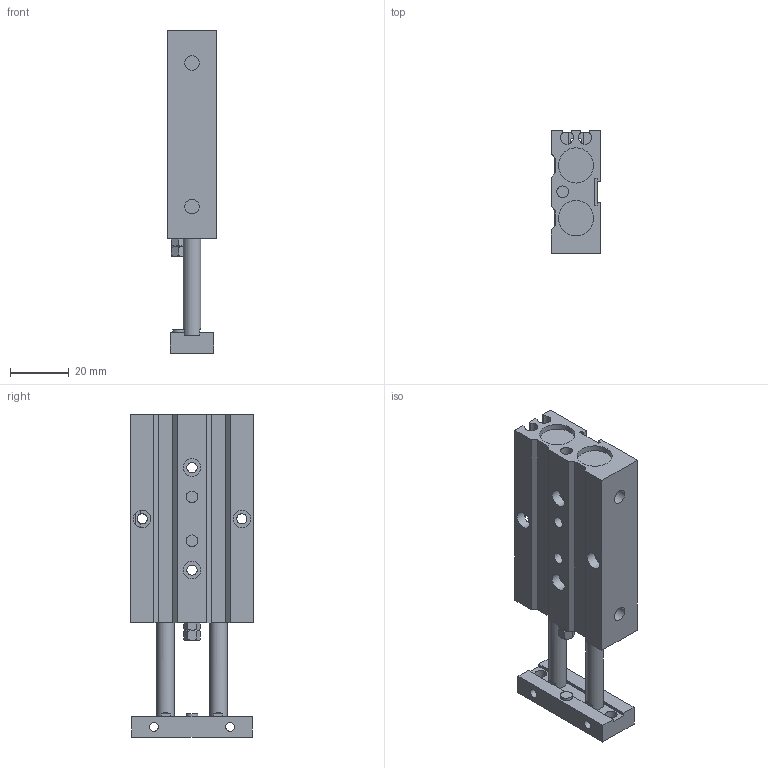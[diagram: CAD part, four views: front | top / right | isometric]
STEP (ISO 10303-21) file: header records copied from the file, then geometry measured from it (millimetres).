
FILE_DESCRIPTION((''),'2;1');
FILE_NAME('I:\3D電子目錄\氣缸\TD\TD10\TD10\TD10x25.stp','2007-08-06T09:34:23',('Administrator'),(''),'Autodesk Inventor 2008','Autodesk Inventor 2008','');
FILE_SCHEMA(('AUTOMOTIVE_DESIGN { 1 0 10303 214 1 1 1 1 }'));
Length unit declared in the file: millimetre
Products named in the file (1): TD10X25
Bounding box: 17 x 42 x 110 mm (x, y, z)
Volume: 48768.3 mm3; surface area: 17411.6 mm2
Topology: 1 solids, 3 shells, 153 faces, 377 edges, 246 vertices
Faces by surface type: plane 99, cylinder 32, bspline 13, cone 7, torus 2
Full cylindrical faces by diameter (mm): 3 x2, 3.5 x4, 4 x4, 4.011 x2, 5 x4, 6 x8, 7 x2, 12 x4
Entity records: 4542 total; most frequent: CARTESIAN_POINT 1135, DIRECTION 662, ORIENTED_EDGE 644, EDGE_CURVE 322, EDGE_LOOP 238, VERTEX_POINT 234, AXIS2_PLACEMENT_3D 229, VECTOR 204
